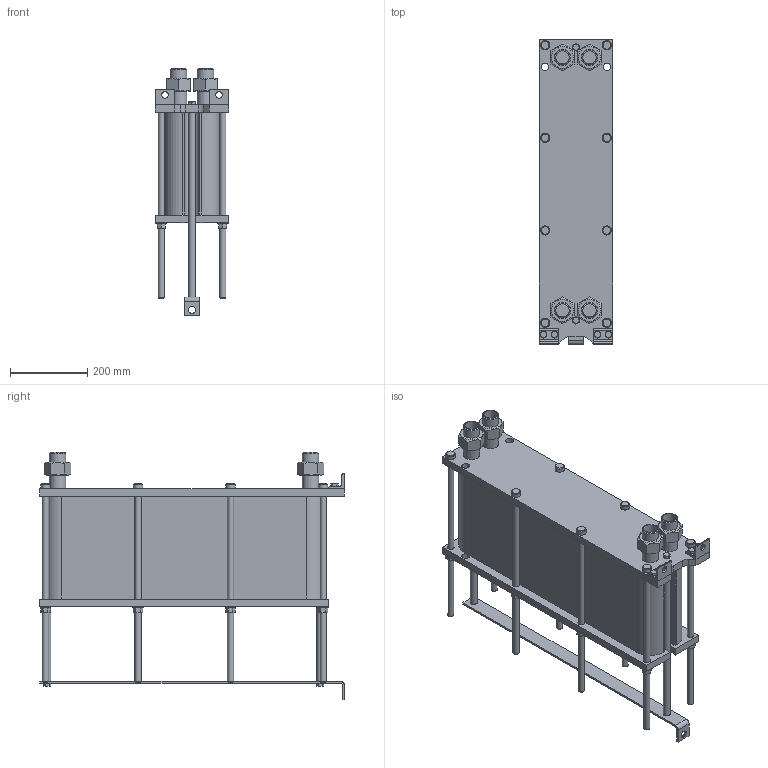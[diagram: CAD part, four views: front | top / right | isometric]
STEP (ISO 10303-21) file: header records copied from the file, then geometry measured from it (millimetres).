
FILE_DESCRIPTION(/* description */ (''),/* implementation_level */ '2;1');
FILE_NAME(/* name */ 'C:\Users\zhuro\Desktop\ENCO\TO\ЭН-008\ЭН-0,5-008-86-1.stp',/* time_stamp */ '2022-06-06T10:53:15+03:00',/* author */ ('zhuro'),/* organization */ (''),/* preprocessor_version */ 'ST-DEVELOPER v18.1',/* originating_system */ 'Autodesk Inventor 2022',/* authorisation */ '');
FILE_SCHEMA (('AUTOMOTIVE_DESIGN { 1 0 10303 214 3 1 1 }'));
Length unit declared in the file: millimetre
Products named in the file (1): ЭН-0,5-008-86-1
Bounding box: 190 x 790 x 641.8 mm (x, y, z)
Volume: 34088108 mm3; surface area: 1903101.2 mm2
Topology: 40 solids, 40 shells, 428 faces, 924 edges, 606 vertices
Faces by surface type: plane 273, cylinder 109, cone 40, torus 6
Full cylindrical faces by diameter (mm): 12 x6, 14 x2, 16 x20, 17 x8, 18 x19, 20 x5, 24 x8, 28 x8, 34.3 x8, 42.3 x8
Entity records: 15843 total; most frequent: CARTESIAN_POINT 5991, DIRECTION 1984, ORIENTED_EDGE 1848, EDGE_CURVE 924, AXIS2_PLACEMENT_3D 715, VERTEX_POINT 606, LINE 554, VECTOR 554
